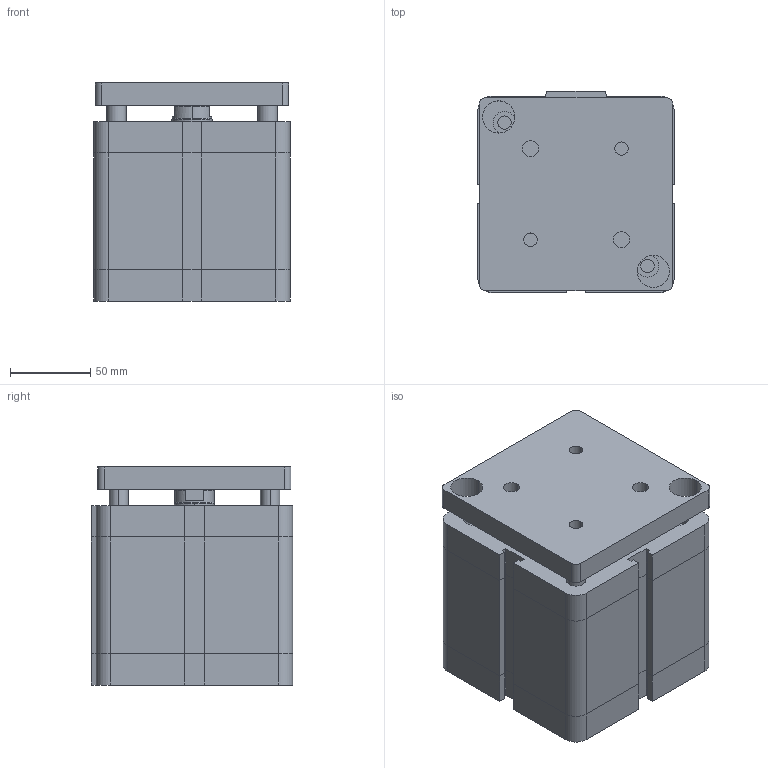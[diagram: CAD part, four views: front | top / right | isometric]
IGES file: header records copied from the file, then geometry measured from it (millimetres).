
Global section: file name: No Iges File Name specified; native system: Autodesk Inventor 2009; preprocessor: AutoDesk Inventor Iges Exporter R2009; author: maffial1; date: 20090420.201303; units: millimetre
Bounding box: 122 x 125 x 135.5 mm (x, y, z)
Volume: 1822369.8 mm3; surface area: 150553.7 mm2
Topology: 2 solids, 2 shells, 212 faces, 486 edges, 298 vertices
Faces by surface type: plane 111, bspline 67, cylinder 26, cone 8
